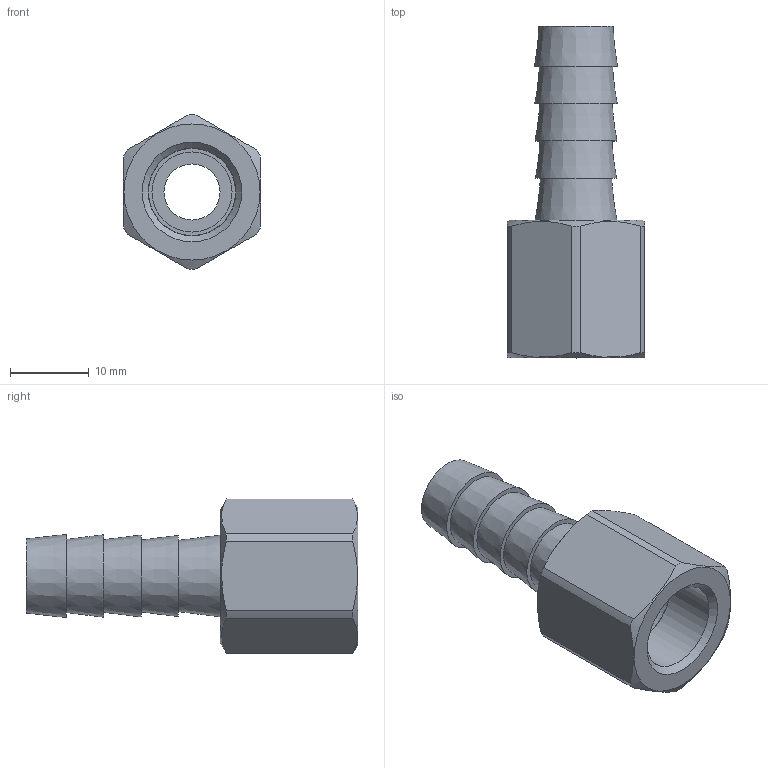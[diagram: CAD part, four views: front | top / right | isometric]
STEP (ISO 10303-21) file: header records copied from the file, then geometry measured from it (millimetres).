
FILE_DESCRIPTION(/* description */ (''),/* implementation_level */ '2;1');
FILE_NAME(/* name */ 'C:/Users/drich/Desktop/FB38-4 v2.step',/* time_stamp */ '2020-02-09T10:48:31-06:00',/* author */ (''),/* organization */ (''),/* preprocessor_version */ 'ST-DEVELOPER v18',/* originating_system */ 'Autodesk Translation Framework v8.12.0.6',/* authorisation */ '');
FILE_SCHEMA (('AUTOMOTIVE_DESIGN { 1 0 10303 214 3 1 1 }'));
Length unit declared in the file: inch
Products named in the file (2): FB38-4; 38 BARB ONLY
Assembly tree (1 placements, depth 2):
  FB38-4
    38 BARB ONLY
Bounding box: 17.45 x 42.09 x 19.56 mm (x, y, z)
Volume: 3810.2 mm3; surface area: 3417.5 mm2
Topology: 2 solids, 2 shells, 35 faces, 92 edges, 66 vertices
Faces by surface type: plane 15, cone 10, cylinder 10
Full cylindrical faces by diameter (mm): 7.112 x1, 10.16 x1, 11.049 x1, 11.1 x1
Entity records: 1191 total; most frequent: CARTESIAN_POINT 220, DIRECTION 210, ORIENTED_EDGE 184, EDGE_CURVE 92, AXIS2_PLACEMENT_3D 92, VERTEX_POINT 66, CIRCLE 54, EDGE_LOOP 44
